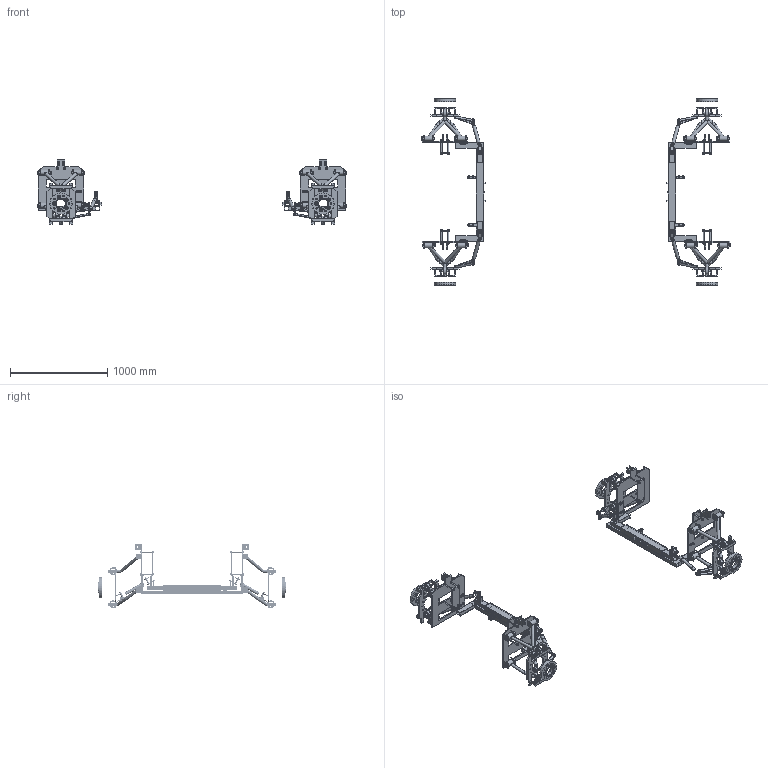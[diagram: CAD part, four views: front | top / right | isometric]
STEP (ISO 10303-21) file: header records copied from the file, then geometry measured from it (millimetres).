
FILE_DESCRIPTION(('Open CASCADE Model'),'2;1');
FILE_NAME('Open CASCADE Shape Model','2026-10-09T06:07:46',('Author'),( 'Open CASCADE'),'Open CASCADE STEP processor 7.8','Open CASCADE 7.8' ,'Unknown');
FILE_SCHEMA(('AUTOMOTIVE_DESIGN { 1 0 10303 214 1 1 1 1 }'));
Length unit declared in the file: millimetre
Products named in the file (77): original_steering_C03_R01; rear_right_clamp; rear_right_inner_backing_C02_R01; rear_right_stationary_hardware_C02_R01; rear_right_upper_wishbone_C03_R02; rear_right_lower_wishbone_C03_R03; rear_right_outer_pins_left_C03_R01; rear_right_upright; rear_right_retainer_upper; rear_right_retainer_lower; rear_right_wheel_adapter; rear_right_tie_tube_C03_R02; rear_right_tie_insert_RH_C03_R02; rear_right_tie_insert_LH_C03_R02; rear_right_inner_tie_pin; rear_right_outer_tie_pin; rear_left_clamp; rear_left_inner_backing_C02_R01; rear_left_stationary_hardware_C02_R01; rear_left_upper_wishbone_C03_R02; rear_left_lower_wishbone_C03_R03; rear_left_outer_pins_left_C03_R01; rear_left_upright; rear_left_retainer_upper; rear_left_retainer_lower; rear_left_wheel_adapter; rear_left_tie_tube_C03_R02; rear_left_tie_insert_RH_C03_R02; rear_left_tie_insert_LH_C03_R02; rear_left_inner_tie_pin; rear_left_outer_tie_pin; front_right_clamp; front_right_inner_backing_C02_R01; front_right_stationary_hardware_C02_R01; front_right_upper_wishbone_C03_R02; front_right_lower_wishbone_C03_R03; front_right_outer_pins_left_C03_R01; front_right_upright; front_right_retainer_upper; front_right_retainer_lower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
Assembly tree (76 placements, depth 2):
  original_steering_C03_R01
    rear_right_clamp
    rear_right_inner_backing_C02_R01
    rear_right_stationary_hardware_C02_R01
    rear_right_upper_wishbone_C03_R02
    rear_right_lower_wishbone_C03_R03
    rear_right_outer_pins_left_C03_R01
    rear_right_upright
    rear_right_retainer_upper
    rear_right_retainer_lower
    rear_right_wheel_adapter
    rear_right_tie_tube_C03_R02
    rear_right_tie_insert_RH_C03_R02
    rear_right_tie_insert_LH_C03_R02
    rear_right_inner_tie_pin
    rear_right_outer_tie_pin
    rear_left_clamp
    rear_left_inner_backing_C02_R01
    rear_left_stationary_hardware_C02_R01
    rear_left_upper_wishbone_C03_R02
    rear_left_lower_wishbone_C03_R03
    rear_left_outer_pins_left_C03_R01
    rear_left_upright
    rear_left_retainer_upper
    rear_left_retainer_lower
    rear_left_wheel_adapter
    rear_left_tie_tube_C03_R02
    rear_left_tie_insert_RH_C03_R02
    rear_left_tie_insert_LH_C03_R02
    rear_left_inner_tie_pin
    rear_left_outer_tie_pin
    front_right_clamp
    front_right_inner_backing_C02_R01
    front_right_stationary_hardware_C02_R01
    front_right_upper_wishbone_C03_R02
    front_right_lower_wishbone_C03_R03
    front_right_outer_pins_left_C03_R01
    front_right_upright
    front_right_retainer_upper
    front_right_retainer_lower
    front_right_wheel_adapter
    front_right_tie_tube_C03_R02
    front_right_tie_insert_RH_C03_R02
    front_right_tie_insert_LH_C03_R02
    front_right_inner_tie_pin
    front_right_outer_tie_pin
    front_left_clamp
    front_left_inner_backing_C02_R01
    front_left_stationary_hardware_C02_R01
    front_left_upper_wishbone_C03_R02
    front_left_lower_wishbone_C03_R03
    front_left_outer_pins_left_C03_R01
    front_left_upright
    front_left_retainer_upper
    front_left_retainer_lower
    front_left_wheel_adapter
    front_left_tie_tube_C03_R02
    front_left_tie_insert_RH_C03_R02
    front_left_tie_insert_LH_C03_R02
    front_left_inner_tie_pin
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Bounding box: 3182 x 1936 x 660 mm (x, y, z)
Volume: 30487840.5 mm3; surface area: 8581603.1 mm2
Topology: 202 solids, 210 shells, 3356 faces, 8112 edges, 5280 vertices
Faces by surface type: plane 2212, cylinder 1136, cone 8
Full cylindrical faces by diameter (mm): 3.2 x20, 4 x16, 4.2 x32, 5.5 x32, 8.5 x24, 10 x32, 11 x64, 12 x36, 12.5 x8, 13 x48, 14.5 x36, 15.875 x8, 16.3 x16, 17 x20, 17.462 x8, 19 x16, 19.05 x8, 19.5 x16, 20 x48, 20.5 x32, 22 x4, 24 x28, 25 x24, 26 x32, 28 x8, 32 x60, 35 x16, 36 x20, 50 x32, 53.975 x8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
Entity records: 340198 total; most frequent: CARTESIAN_POINT 174843, DIRECTION 30176, LINE 17098, VECTOR 17098, ORIENTED_EDGE 16232, PCURVE 16224, DEFINITIONAL_REPRESENTATION 16224, EDGE_CURVE 8112
